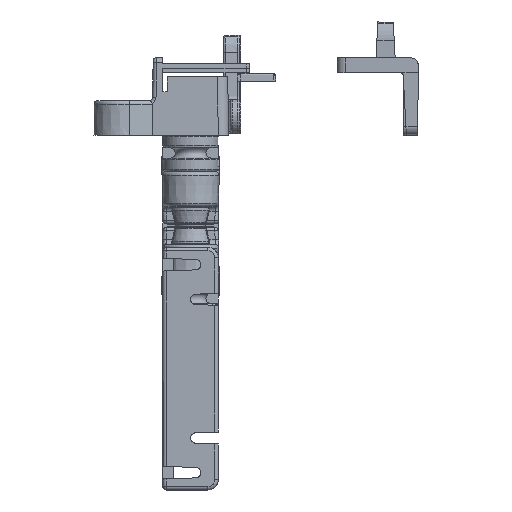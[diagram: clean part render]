
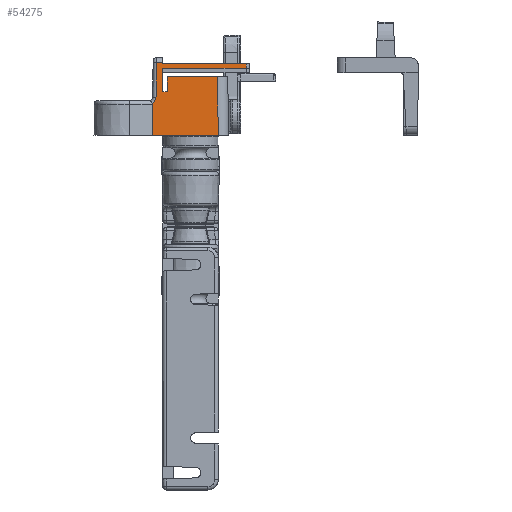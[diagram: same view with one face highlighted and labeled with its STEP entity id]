
A CAD part, left-side view. The second image highlights one B-rep face of the part: STEP entity #54275.
In plain terms, the highlighted planar face has unit normal (-1, 0, 0.018).
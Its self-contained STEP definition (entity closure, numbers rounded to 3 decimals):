
#1506 = LINE ( 'NONE', #68239, #24377 ) ;
#1990 = ORIENTED_EDGE ( 'NONE', *, *, #74193, .F. ) ;
#2210 = DIRECTION ( 'NONE',  ( 0.017, 0., 1. ) ) ;
#2621 = LINE ( 'NONE', #60366, #12917 ) ;
#3212 = LINE ( 'NONE', #28488, #76738 ) ;
#4262 = LINE ( 'NONE', #75711, #20608 ) ;
#4671 = ORIENTED_EDGE ( 'NONE', *, *, #16369, .T. ) ;
#5394 = VERTEX_POINT ( 'NONE', #82118 ) ;
#6305 = VERTEX_POINT ( 'NONE', #38181 ) ;
#7359 = ORIENTED_EDGE ( 'NONE', *, *, #44768, .F. ) ;
#8165 = CARTESIAN_POINT ( 'NONE',  ( 24.5, 0., 67.328 ) ) ;
#9931 = VECTOR ( 'NONE', #45538, 1000. ) ;
#10211 = ORIENTED_EDGE ( 'NONE', *, *, #17353, .T. ) ;
#12632 = CARTESIAN_POINT ( 'NONE',  ( 24.72, -1.25, 79.928 ) ) ;
#12917 = VECTOR ( 'NONE', #2210, 1000. ) ;
#13592 = CARTESIAN_POINT ( 'NONE',  ( 24.5, 2.175, 67.313 ) ) ;
#14860 = CARTESIAN_POINT ( 'NONE',  ( 24.838, 3., 86.678 ) ) ;
#15001 = CARTESIAN_POINT ( 'NONE',  ( 24.851, 0.001, 87.42 ) ) ;
#15355 = CARTESIAN_POINT ( 'NONE',  ( 24.506, -15.995, 67.659 ) ) ;
#15916 = EDGE_CURVE ( 'NONE', #69522, #21137, #22992, .T. ) ;
#16369 = EDGE_CURVE ( 'NONE', #44484, #65052, #1506, .T. ) ;
#16869 = LINE ( 'NONE', #42607, #81288 ) ;
#17057 = VECTOR ( 'NONE', #41497, 1000. ) ;
#17317 = ORIENTED_EDGE ( 'NONE', *, *, #29929, .T. ) ;
#17353 = EDGE_CURVE ( 'NONE', #24508, #80572, #71790, .T. ) ;
#17976 = FACE_OUTER_BOUND ( 'NONE', #53799, .T. ) ;
#18020 = CARTESIAN_POINT ( 'NONE',  ( 24.5, -1.25, 67.328 ) ) ;
#19160 = VERTEX_POINT ( 'NONE', #44207 ) ;
#20608 = VECTOR ( 'NONE', #36421, 1000. ) ;
#21137 = VERTEX_POINT ( 'NONE', #82845 ) ;
#21279 = DIRECTION ( 'NONE',  ( 0., -1., 0. ) ) ;
#22992 = LINE ( 'NONE', #14860, #31418 ) ;
#23024 = EDGE_CURVE ( 'NONE', #76392, #31793, #84004, .T. ) ;
#24197 = VERTEX_POINT ( 'NONE', #25745 ) ;
#24266 = CARTESIAN_POINT ( 'NONE',  ( 24.692, 1.983, 78.31 ) ) ;
#24377 = VECTOR ( 'NONE', #35339, 1000. ) ;
#24508 = VERTEX_POINT ( 'NONE', #29969 ) ;
#24953 = EDGE_CURVE ( 'NONE', #19160, #69522, #51536, .T. ) ;
#25006 = EDGE_CURVE ( 'NONE', #44484, #6305, #47119, .T. ) ;
#25133 = ORIENTED_EDGE ( 'NONE', *, *, #47829, .T. ) ;
#25197 = VERTEX_POINT ( 'NONE', #64580 ) ;
#25412 = CARTESIAN_POINT ( 'NONE',  ( 24.5, 3., 67.328 ) ) ;
#25745 = CARTESIAN_POINT ( 'NONE',  ( 24.86, -24., 87.928 ) ) ;
#26418 = EDGE_CURVE ( 'NONE', #49487, #19160, #78393, .T. ) ;
#26587 = DIRECTION ( 'NONE',  ( -0.017, 0., -1. ) ) ;
#28093 = ORIENTED_EDGE ( 'NONE', *, *, #73570, .T. ) ;
#28488 = CARTESIAN_POINT ( 'NONE',  ( 24.86, 3., 87.928 ) ) ;
#29087 = VERTEX_POINT ( 'NONE', #58897 ) ;
#29491 = EDGE_CURVE ( 'NONE', #21137, #24197, #2621, .T. ) ;
#29929 = EDGE_CURVE ( 'NONE', #31793, #49598, #55132, .T. ) ;
#29969 = CARTESIAN_POINT ( 'NONE',  ( 24.692, 1.983, 78.31 ) ) ;
#30863 = PLANE ( 'NONE',  #72747 ) ;
#31418 = VECTOR ( 'NONE', #21279, 1000. ) ;
#31793 = VERTEX_POINT ( 'NONE', #48701 ) ;
#33034 = CARTESIAN_POINT ( 'NONE',  ( 24.865, 0.015, 88.254 ) ) ;
#33390 = CARTESIAN_POINT ( 'NONE',  ( 24.657, 3.025, 76.345 ) ) ;
#33528 = DIRECTION ( 'NONE',  ( 0., -1., 0. ) ) ;
#33897 = DIRECTION ( 'NONE',  ( 0., 1., 0. ) ) ;
#35166 = CARTESIAN_POINT ( 'NONE',  ( 24.838, 0., 86.678 ) ) ;
#35308 = CARTESIAN_POINT ( 'NONE',  ( 24.795, -15.705, 84.228 ) ) ;
#35339 = DIRECTION ( 'NONE',  ( 0., 1., 0. ) ) ;
#36421 = DIRECTION ( 'NONE',  ( 0.017, 0.003, 1. ) ) ;
#36485 = ORIENTED_EDGE ( 'NONE', *, *, #44488, .T. ) ;
#37840 = CARTESIAN_POINT ( 'NONE',  ( 24.5, 3., 67.328 ) ) ;
#38181 = CARTESIAN_POINT ( 'NONE',  ( 24.86, 0.01, 87.928 ) ) ;
#40477 = VECTOR ( 'NONE', #75847, 1000. ) ;
#41497 = DIRECTION ( 'NONE',  ( 0.017, 0.017, 1. ) ) ;
#42607 = CARTESIAN_POINT ( 'NONE',  ( 24.795, 0., 84.228 ) ) ;
#42959 = LINE ( 'NONE', #48502, #40477 ) ;
#43548 = CARTESIAN_POINT ( 'NONE',  ( 24.661, 3.096, 76.552 ) ) ;
#44207 = CARTESIAN_POINT ( 'NONE',  ( 24.72, 0., 79.928 ) ) ;
#44484 = VERTEX_POINT ( 'NONE', #33034 ) ;
#44488 = EDGE_CURVE ( 'NONE', #5394, #49487, #77505, .T. ) ;
#44768 = EDGE_CURVE ( 'NONE', #25197, #29087, #4262, .T. ) ;
#45538 = DIRECTION ( 'NONE',  ( 0.017, 0., 1. ) ) ;
#45613 = VECTOR ( 'NONE', #33897, 1000. ) ;
#46295 = CARTESIAN_POINT ( 'NONE',  ( 24.72, 3., 79.928 ) ) ;
#47119 = LINE ( 'NONE', #15001, #63185 ) ;
#47734 = DIRECTION ( 'NONE',  ( 0., 1., 0. ) ) ;
#47829 = EDGE_CURVE ( 'NONE', #24197, #6305, #3212, .T. ) ;
#48046 = VECTOR ( 'NONE', #59337, 1000. ) ;
#48502 = CARTESIAN_POINT ( 'NONE',  ( 24.879, 3., 89.033 ) ) ;
#48701 = CARTESIAN_POINT ( 'NONE',  ( 24.5, -16., 67.328 ) ) ;
#49255 = DIRECTION ( 'NONE',  ( -1., 0., 0.017 ) ) ;
#49440 = CARTESIAN_POINT ( 'NONE',  ( 24.661, 3.096, 76.552 ) ) ;
#49487 = VERTEX_POINT ( 'NONE', #12632 ) ;
#49598 = VERTEX_POINT ( 'NONE', #35308 ) ;
#50354 = CARTESIAN_POINT ( 'NONE',  ( 24.678, 1.996, 77.542 ) ) ;
#51350 = EDGE_CURVE ( 'NONE', #65052, #24508, #51679, .T. ) ;
#51536 = LINE ( 'NONE', #8165, #9931 ) ;
#51679 = LINE ( 'NONE', #13592, #48046 ) ;
#53035 = CARTESIAN_POINT ( 'NONE',  ( 24.661, 3.096, 76.552 ) ) ;
#53799 = EDGE_LOOP ( 'NONE', ( #82562, #10211, #1990, #7359, #28093, #84399, #17317, #76036, #36485, #62840, #71659, #78938, #59332, #25133, #59335, #4671 ) ) ;
#54275 = ADVANCED_FACE ( 'NONE', ( #17976 ), #30863, .T. ) ;
#55132 = LINE ( 'NONE', #15355, #17057 ) ;
#56907 = DIRECTION ( 'NONE',  ( 0.017, 0., 1. ) ) ;
#58897 = CARTESIAN_POINT ( 'NONE',  ( 24.657, 3.025, 76.345 ) ) ;
#58912 = VECTOR ( 'NONE', #33528, 1000. ) ;
#59332 = ORIENTED_EDGE ( 'NONE', *, *, #29491, .T. ) ;
#59335 = ORIENTED_EDGE ( 'NONE', *, *, #25006, .F. ) ;
#59337 = DIRECTION ( 'NONE',  ( -0.017, 0.017, -1. ) ) ;
#59425 = CARTESIAN_POINT ( 'NONE',  ( 24.66, 3.049, 76.484 ) ) ;
#60206 = CARTESIAN_POINT ( 'NONE',  ( 24.865, 1.809, 88.254 ) ) ;
#60366 = CARTESIAN_POINT ( 'NONE',  ( 24.5, -24., 67.328 ) ) ;
#62840 = ORIENTED_EDGE ( 'NONE', *, *, #26418, .T. ) ;
#63185 = VECTOR ( 'NONE', #67209, 1000. ) ;
#64580 = CARTESIAN_POINT ( 'NONE',  ( 24.5, 3., 67.353 ) ) ;
#65052 = VERTEX_POINT ( 'NONE', #60206 ) ;
#67209 = DIRECTION ( 'NONE',  ( -0.017, -0.017, -1. ) ) ;
#68239 = CARTESIAN_POINT ( 'NONE',  ( 24.865, 2.784, 88.254 ) ) ;
#68664 = DIRECTION ( 'NONE',  ( 0., -1., 0. ) ) ;
#69522 = VERTEX_POINT ( 'NONE', #35166 ) ;
#71659 = ORIENTED_EDGE ( 'NONE', *, *, #24953, .T. ) ;
#71790 =( BOUNDED_CURVE ( )  B_SPLINE_CURVE ( 3, ( #24266, #50354, #76431, #43548 ),
 .UNSPECIFIED., .F., .F. ) 
 B_SPLINE_CURVE_WITH_KNOTS ( ( 4, 4 ),
 ( 4.73, 5.824 ),
 .UNSPECIFIED. ) 
 CURVE ( )  GEOMETRIC_REPRESENTATION_ITEM ( )  RATIONAL_B_SPLINE_CURVE ( ( 1., 0.903, 0.903, 1. ) ) 
 REPRESENTATION_ITEM ( '' )  );
#72747 = AXIS2_PLACEMENT_3D ( 'NONE', #81770, #49255, #56907 ) ;
#73570 = EDGE_CURVE ( 'NONE', #25197, #76392, #42959, .T. ) ;
#74193 = EDGE_CURVE ( 'NONE', #29087, #80572, #78432, .T. ) ;
#75711 = CARTESIAN_POINT ( 'NONE',  ( 24.499, 3., 67.287 ) ) ;
#75847 = DIRECTION ( 'NONE',  ( -0.017, 0., -1. ) ) ;
#76036 = ORIENTED_EDGE ( 'NONE', *, *, #83631, .F. ) ;
#76392 = VERTEX_POINT ( 'NONE', #37840 ) ;
#76431 = CARTESIAN_POINT ( 'NONE',  ( 24.667, 2.407, 76.893 ) ) ;
#76738 = VECTOR ( 'NONE', #47734, 1000. ) ;
#77505 = LINE ( 'NONE', #18020, #79392 ) ;
#78300 = CARTESIAN_POINT ( 'NONE',  ( 24.659, 3.025, 76.415 ) ) ;
#78393 = LINE ( 'NONE', #46295, #45613 ) ;
#78432 =( BOUNDED_CURVE ( )  B_SPLINE_CURVE ( 3, ( #33390, #78300, #59425, #53035 ),
 .UNSPECIFIED., .F., .F. ) 
 B_SPLINE_CURVE_WITH_KNOTS ( ( 4, 4 ),
 ( 3.141, 3.35 ),
 .UNSPECIFIED. ) 
 CURVE ( )  GEOMETRIC_REPRESENTATION_ITEM ( )  RATIONAL_B_SPLINE_CURVE ( ( 1., 0.996, 0.996, 1. ) ) 
 REPRESENTATION_ITEM ( '' )  );
#78938 = ORIENTED_EDGE ( 'NONE', *, *, #15916, .T. ) ;
#79392 = VECTOR ( 'NONE', #26587, 1000. ) ;
#80572 = VERTEX_POINT ( 'NONE', #49440 ) ;
#81288 = VECTOR ( 'NONE', #68664, 1000. ) ;
#81770 = CARTESIAN_POINT ( 'NONE',  ( 24.5, 3., 67.328 ) ) ;
#82118 = CARTESIAN_POINT ( 'NONE',  ( 24.795, -1.25, 84.228 ) ) ;
#82562 = ORIENTED_EDGE ( 'NONE', *, *, #51350, .T. ) ;
#82845 = CARTESIAN_POINT ( 'NONE',  ( 24.838, -24., 86.678 ) ) ;
#83631 = EDGE_CURVE ( 'NONE', #5394, #49598, #16869, .T. ) ;
#84004 = LINE ( 'NONE', #25412, #58912 ) ;
#84399 = ORIENTED_EDGE ( 'NONE', *, *, #23024, .T. ) ;
